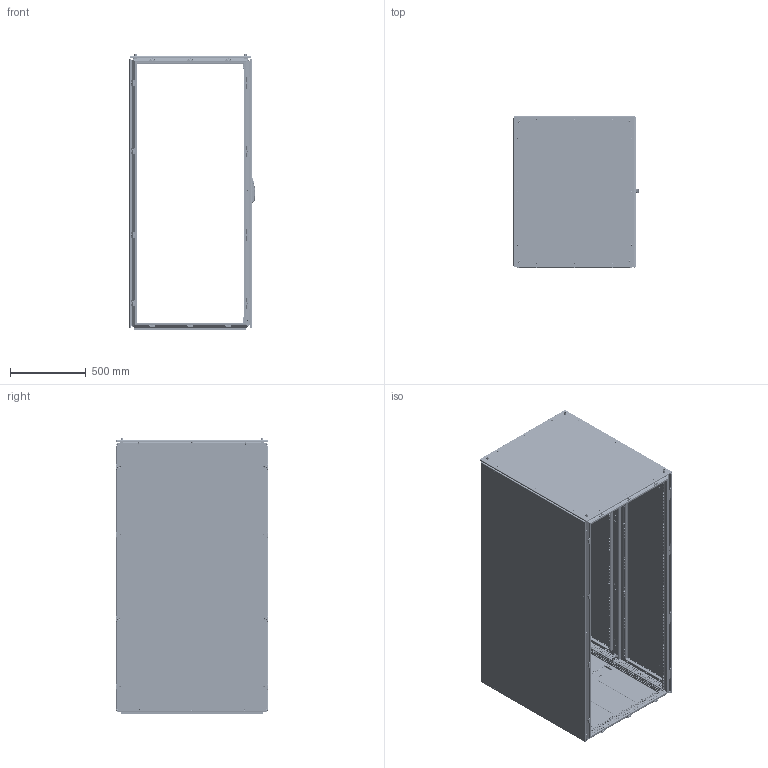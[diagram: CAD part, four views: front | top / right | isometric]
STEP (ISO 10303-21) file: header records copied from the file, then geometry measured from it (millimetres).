
FILE_DESCRIPTION(('STEP AP203'), '1');
FILE_NAME('ØÍÑ ÊÑ PRO II Êîðïóñ ÑÁ', '', ('UNSPECIFIED'), ('UNSPECIFIED'), 'C3D Converter', 'C3D Toolkit', '');
FILE_SCHEMA(('CONFIG_CONTROL_DESIGN'));
Length unit declared in the file: millimetre
Products named in the file (56): 3210.180.100.80; 3000; 3007.175; 3007.75; 3007.200; 3006; 3009.04; 3009.04.01; 3009.04.2; 3009.04.01.2; 3301; 3310; 3311; 3302; 3211; 3409; 3415; 3425; 3426; 3422.01; 3412; 3411; 2952; 3009.05; 3009.05.01; 3622.01; 3417; 3427; 3010
Assembly tree (419 placements, depth 6):
  3210.180.100.80
    3000
      3000
      (unnamed)  x104
      3007.175  x2
      (unnamed)  x30
      3007.75  x2
      3007.200  x4
      3006
      3009.04  x12
        3009.04.01
        (unnamed)
        (unnamed)
      3009.04.2  x17
        3009.04.01.2
        (unnamed)
        (unnamed)
    3301
      3310
        3311
        (unnamed)
      (unnamed)  x12
      (unnamed)  x12
      (unnamed)  x4
      (unnamed)  x4
    3302
      3211
      (unnamed)  x2
      (unnamed)  x14
    3409
      3415
        3425
          3426
          3422.01  x4
          (unnamed)  x12
          (unnamed)  x8
          (unnamed)  x2
        3412  x2
        3411  x2
        (unnamed)  x4
        (unnamed)  x12
        (unnamed)  x20
        (unnamed)  x8
        2952
          (unnamed)
            (unnamed)
            (unnamed)
            (unnamed)
            (unnamed)
            (unnamed)
        (unnamed)  x2
        3009.05  x4
          3009.05.01
          (unnamed)
          (unnamed)
        3622.01  x4
        (unnamed)  x4
      3417
        3427
          3426
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Bounding box: 823.93 x 997 x 1816 mm (x, y, z)
Volume: 13863024.4 mm3; surface area: 17672606.4 mm2
Topology: 546 solids, 546 shells, 29356 faces, 79968 edges, 52430 vertices
Faces by surface type: plane 19208, cylinder 7107, cone 1689, bspline 739, torus 482, extrusion 90, sphere 41
Full cylindrical faces by diameter (mm): 0.5 x32, 2.6 x8, 3.71 x8, 4.134 x158, 4.3 x2, 4.5 x2434, 4.8 x32, 4.917 x32, 5 x218, 5.2 x1, 5.5 x12, 5.8 x54, 6 x77, 6.1 x8, 6.4 x8, 6.6 x32, 6.75 x32, 6.8 x216, 7 x112, 7.3 x32, 7.5 x102, 8 x140, 8.3 x16, 8.5 x13, 9.2 x90, 10 x47, 10.106 x8, 10.5 x10, 11.5 x14, 12 x44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
Entity records: 696777 total; most frequent: CARTESIAN_POINT 267777, ORIENTED_EDGE 81554, DIRECTION 76217, EDGE_CURVE 40777, VECTOR 31361, LINE 31316, VERTEX_POINT 28525, EDGE_LOOP 26900
